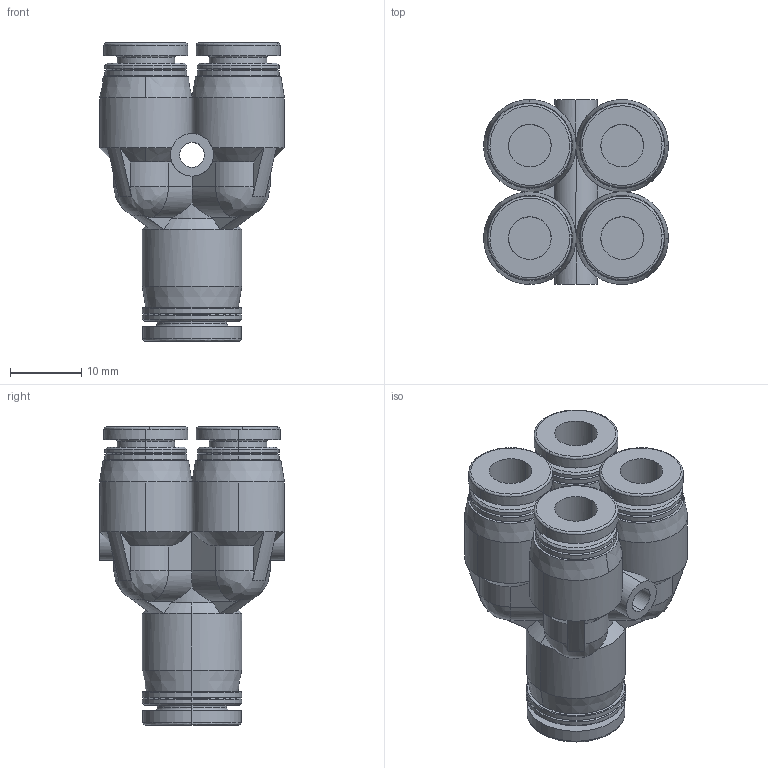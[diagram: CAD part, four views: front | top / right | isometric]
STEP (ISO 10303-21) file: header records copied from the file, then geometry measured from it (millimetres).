
FILE_DESCRIPTION (( 'STEP AP214' ), '1' );
FILE_NAME ('APRG8-6.STEP', '2019-12-06T01:27:00', ( '微软用户' ), ( '微软中国' ), 'SwSTEP 2.0', 'SolidWorks 2016', '' );
FILE_SCHEMA (( 'AUTOMOTIVE_DESIGN' ));
Length unit declared in the file: millimetre
Products named in the file (1): APRG8-6
Bounding box: 26 x 26 x 41.95 mm (x, y, z)
Volume: 10353.5 mm3; surface area: 7490 mm2
Topology: 1 solids, 1 shells, 254 faces, 609 edges, 365 vertices
Faces by surface type: cylinder 93, cone 76, plane 51, bspline 34
Entity records: 12377 total; most frequent: CARTESIAN_POINT 6888, ORIENTED_EDGE 1202, DIRECTION 1050, EDGE_CURVE 601, AXIS2_PLACEMENT_3D 430, VERTEX_POINT 365, EDGE_LOOP 276, FACE_OUTER_BOUND 254
